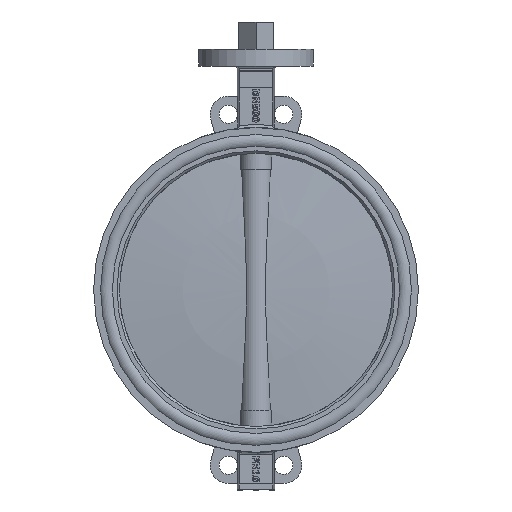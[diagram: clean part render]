
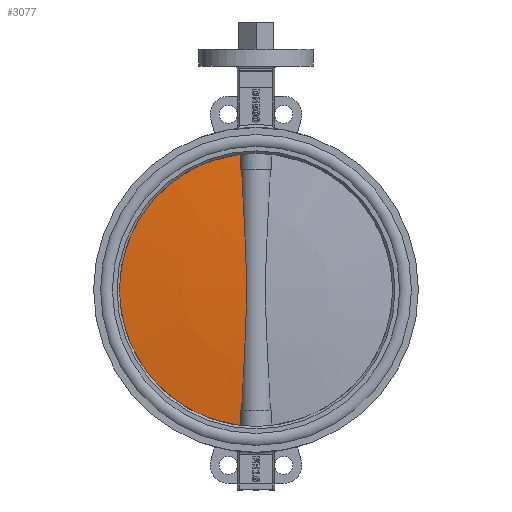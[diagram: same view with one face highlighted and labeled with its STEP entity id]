
A CAD part, left-side view. The second image highlights one B-rep face of the part: STEP entity #3077.
In plain terms, the highlighted spherical face has radius 2200.11 mm.
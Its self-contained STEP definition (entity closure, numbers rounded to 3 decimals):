
#3077=ADVANCED_FACE('',(#9563),#9565,.T.);
#9563=FACE_BOUND('',#9564,.T.);
#9564=EDGE_LOOP('',(#12676,#12677,#12678,#12679,#12680,#12681));
#9565=SPHERICAL_SURFACE('',#9566,2200.107);
#9566=AXIS2_PLACEMENT_3D('',#9567,#9568,#9569);
#9567=CARTESIAN_POINT('',(0.,-2177.107,0.));
#9568=DIRECTION('',(0.,-1.,0.));
#9569=DIRECTION('',(0.,0.,1.));
#12676=ORIENTED_EDGE('',*,*,#13897,.F.);
#12677=ORIENTED_EDGE('',*,*,#13909,.F.);
#12678=ORIENTED_EDGE('',*,*,#13910,.T.);
#12679=ORIENTED_EDGE('',*,*,#13911,.F.);
#12680=ORIENTED_EDGE('',*,*,#13880,.F.);
#12681=ORIENTED_EDGE('',*,*,#13908,.T.);
#13880=EDGE_CURVE('',#15723,#15724,#15725,.F.);
#13897=EDGE_CURVE('',#15756,#15741,#15758,.T.);
#13908=EDGE_CURVE('',#15723,#15741,#15773,.T.);
#13909=EDGE_CURVE('',#15774,#15756,#15775,.T.);
#13910=EDGE_CURVE('',#15774,#15776,#15777,.T.);
#13911=EDGE_CURVE('',#15724,#15776,#15778,.T.);
#15723=VERTEX_POINT('',#22142);
#15724=VERTEX_POINT('',#22143);
#15725=B_SPLINE_CURVE_WITH_KNOTS('',3,
(#22144,#22145,#22146,#22147,#22148,#22149,#22150,#22151,#22152,#22153,#22154),
.UNSPECIFIED.,.F.,.F.,
(4,1,1,1,1,1,1,1,4),
(0.,0.124,0.249,0.374,0.499,0.624,
0.749,0.874,1.),
.UNSPECIFIED.);
#15741=VERTEX_POINT('',#22282);
#15756=VERTEX_POINT('',#22406);
#15758=B_SPLINE_CURVE_WITH_KNOTS('',3,
(#22411,#22412,#22413,#22414,#22415,#22416,#22417,#22418,#22419,#22420,#22421),
.UNSPECIFIED.,.F.,.F.,
(4,1,1,1,1,1,1,1,4),
(0.,0.124,0.249,0.374,0.499,0.624,
0.749,0.874,1.),
.UNSPECIFIED.);
#15773=CIRCLE('',#22530,250.);
#15774=VERTEX_POINT('',#22534);
#15775=CIRCLE('',#22535,2189.043);
#15776=VERTEX_POINT('',#22539);
#15777=B_SPLINE_CURVE_WITH_KNOTS('',3,
(#22540,#22541,#22542,#22543,#22544,#22545,#22546,#22547,#22548,#22549,#22550,#22551,
#22552,#22553,#22554,#22555,#22556,#22557,#22558,#22559,#22560,#22561,#22562,#22563,
#22564,#22565,#22566,#22567,#22568,#22569,#22570,#22571,#22572,#22573,#22574,#22575),
.UNSPECIFIED.,.F.,.F.,
(4,1,1,1,1,1,1,1,1,1,1,1,1,1,1,1,1,1,1,1,1,1,1,1,1,1,1,1,1,1,1,1,1,4),
(0.,0.031,0.058,0.093,0.143,0.192,
0.231,0.262,0.291,0.318,0.338,
0.359,0.381,0.403,0.426,0.45,
0.475,0.5,0.5,0.526,0.553,
0.582,0.612,0.643,0.675,0.709,
0.743,0.777,0.813,0.849,0.886,
0.924,0.962,1.),
.UNSPECIFIED.);
#15778=CIRCLE('',#22576,2189.043);
#22142=CARTESIAN_POINT('',(28.865,8.75,248.328));
#22143=CARTESIAN_POINT('',(27.776,11.76,220.367));
#22144=CARTESIAN_POINT('',(27.776,11.76,220.367));
#22145=CARTESIAN_POINT('',(27.825,11.642,221.528));
#22146=CARTESIAN_POINT('',(27.924,11.405,223.85));
#22147=CARTESIAN_POINT('',(28.069,11.044,227.335));
#22148=CARTESIAN_POINT('',(28.21,10.677,230.824));
#22149=CARTESIAN_POINT('',(28.349,10.304,234.317));
#22150=CARTESIAN_POINT('',(28.484,9.925,237.815));
#22151=CARTESIAN_POINT('',(28.615,9.539,241.316));
#22152=CARTESIAN_POINT('',(28.743,9.148,244.821));
#22153=CARTESIAN_POINT('',(28.825,8.883,247.159));
#22154=CARTESIAN_POINT('',(28.865,8.75,248.328));
#22282=CARTESIAN_POINT('',(28.865,8.75,-248.328));
#22406=CARTESIAN_POINT('',(27.776,11.76,-220.367));
#22411=CARTESIAN_POINT('',(27.776,11.76,-220.367));
#22412=CARTESIAN_POINT('',(27.825,11.642,-221.528));
#22413=CARTESIAN_POINT('',(27.924,11.405,-223.85));
#22414=CARTESIAN_POINT('',(28.069,11.044,-227.335));
#22415=CARTESIAN_POINT('',(28.21,10.677,-230.824));
#22416=CARTESIAN_POINT('',(28.349,10.304,-234.317));
#22417=CARTESIAN_POINT('',(28.484,9.925,-237.815));
#22418=CARTESIAN_POINT('',(28.615,9.539,-241.316));
#22419=CARTESIAN_POINT('',(28.743,9.148,-244.821));
#22420=CARTESIAN_POINT('',(28.825,8.883,-247.159));
#22421=CARTESIAN_POINT('',(28.865,8.75,-248.328));
#22530=AXIS2_PLACEMENT_3D('',#22531,#22532,#22533);
#22531=CARTESIAN_POINT('',(0.,8.75,0.));
#22532=DIRECTION('',(0.,1.,0.));
#22533=DIRECTION('',(0.115,0.,0.993));
#22534=CARTESIAN_POINT('',(26.352,11.777,-220.367));
#22535=AXIS2_PLACEMENT_3D('',#22536,#22537,#22538);
#22536=CARTESIAN_POINT('',(0.,-2177.107,-220.367));
#22537=DIRECTION('',(0.,0.,-1.));
#22538=DIRECTION('',(0.012,1.,0.));
#22539=CARTESIAN_POINT('',(26.352,11.777,220.367));
#22540=CARTESIAN_POINT('',(26.352,11.777,-220.367));
#22541=CARTESIAN_POINT('',(26.149,12.23,-215.892));
#22542=CARTESIAN_POINT('',(25.753,13.057,-207.464));
#22543=CARTESIAN_POINT('',(25.074,14.321,-193.774));
#22544=CARTESIAN_POINT('',(24.223,15.732,-177.368));
#22545=CARTESIAN_POINT('',(23.16,17.264,-157.582));
#22546=CARTESIAN_POINT('',(22.071,18.623,-137.413));
#22547=CARTESIAN_POINT('',(21.155,19.647,-119.893));
#22548=CARTESIAN_POINT('',(20.436,20.39,-105.449));
#22549=CARTESIAN_POINT('',(19.839,20.97,-92.671));
#22550=CARTESIAN_POINT('',(19.353,21.417,-81.399));
#22551=CARTESIAN_POINT('',(18.955,21.769,-71.296));
#22552=CARTESIAN_POINT('',(18.621,22.055,-61.972));
#22553=CARTESIAN_POINT('',(18.32,22.306,-52.44));
#22554=CARTESIAN_POINT('',(18.054,22.521,-42.606));
#22555=CARTESIAN_POINT('',(17.833,22.696,-32.475));
#22556=CARTESIAN_POINT('',(17.663,22.828,-21.953));
#22557=CARTESIAN_POINT('',(17.556,22.911,-11.14));
#22558=CARTESIAN_POINT('',(17.531,22.93,-3.774));
#22559=CARTESIAN_POINT('',(17.53,22.93,3.786));
#22560=CARTESIAN_POINT('',(17.558,22.909,11.68));
#22561=CARTESIAN_POINT('',(17.684,22.812,23.787));
#22562=CARTESIAN_POINT('',(17.907,22.638,36.416));
#22563=CARTESIAN_POINT('',(18.232,22.378,49.619));
#22564=CARTESIAN_POINT('',(18.659,22.025,63.301));
#22565=CARTESIAN_POINT('',(19.19,21.565,77.558));
#22566=CARTESIAN_POINT('',(19.814,20.995,92.197));
#22567=CARTESIAN_POINT('',(20.52,20.308,107.219));
#22568=CARTESIAN_POINT('',(21.291,19.501,122.529));
#22569=CARTESIAN_POINT('',(22.117,18.561,138.227));
#22570=CARTESIAN_POINT('',(22.977,17.488,154.213));
#22571=CARTESIAN_POINT('',(23.854,16.275,170.49));
#22572=CARTESIAN_POINT('',(24.725,14.924,186.959));
#22573=CARTESIAN_POINT('',(25.569,13.43,203.619));
#22574=CARTESIAN_POINT('',(26.098,12.344,214.769));
#22575=CARTESIAN_POINT('',(26.352,11.777,220.367));
#22576=AXIS2_PLACEMENT_3D('',#22577,#22578,#22579);
#22577=CARTESIAN_POINT('',(0.,-2177.107,220.367));
#22578=DIRECTION('',(0.,0.,1.));
#22579=DIRECTION('',(0.013,1.,0.));
